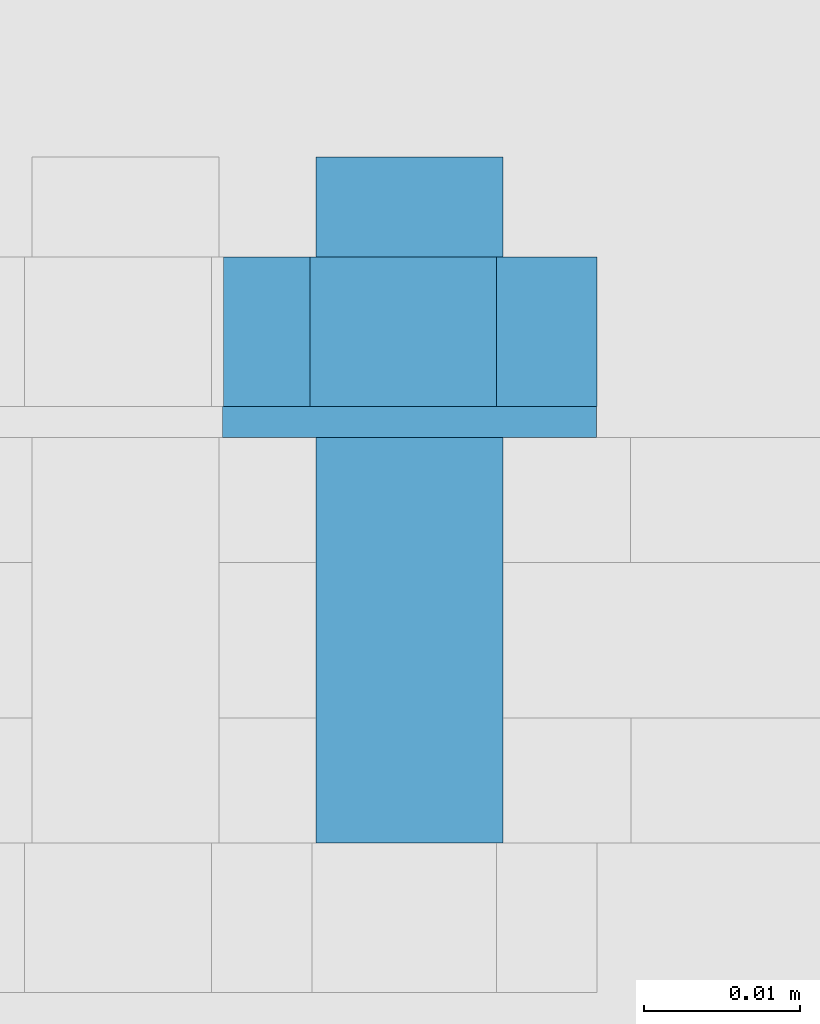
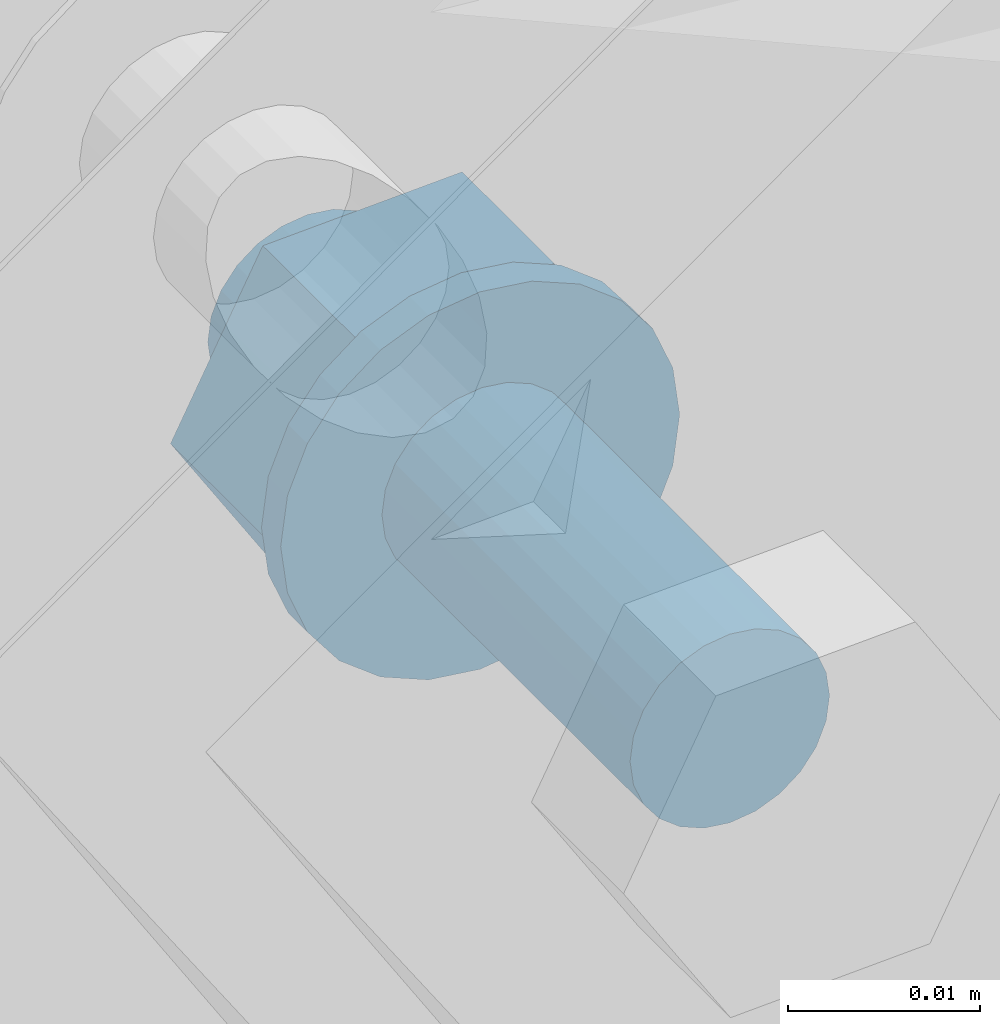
# One storey, part 208 of 251: 3 mechanical fasteners.
"""IFC4 building model written with IfcOpenShell, lengths in metres."""

from ifc_helpers import new_model, si_unit, frame, origin_with_axes, place, context, project, spatial, polyline, outline, extrude, type_object, element, save


model = new_model("IFC4")

# Units and contexts
model_context = context("Model", 3, precision=1e-05, world=origin_with_axes())
ifc_project = project(units=[si_unit("LENGTHUNIT", "METRE"), si_unit("AREAUNIT", "SQUARE_METRE"), si_unit("VOLUMEUNIT", "CUBIC_METRE"), si_unit("MASSUNIT", "GRAM", prefix="KILO"), si_unit("TIMEUNIT", "SECOND"), si_unit("PLANEANGLEUNIT", "RADIAN"), si_unit("SOLIDANGLEUNIT", "STERADIAN"), si_unit("THERMODYNAMICTEMPERATUREUNIT", "DEGREE_CELSIUS")], contexts=[model_context])

# Site, building, storey
placement_1 = place(None, origin_with_axes())
site = spatial("IfcSite", under=ifc_project, at=placement_1, Name="Italia", CompositionType="ELEMENT")
building = spatial("IfcBuilding", under=site, at=placement_1, Name="Deposito", CompositionType="ELEMENT")
storey = spatial("IfcBuildingStorey", under=building, at=placement_1, Name="Storey 0", CompositionType="ELEMENT", Elevation=0.0)

# Mechanical fasteners
mechanical_fastener_type_1 = type_object("IfcMechanicalFastenerType", Name="Reticolare 6", PredefinedType="BOLT")
placement_2 = place(placement_1, origin_with_axes())
mechanical_fastener_1_placement = place(placement_2, origin_with_axes())
element("IfcMechanicalFastener", 1, at=mechanical_fastener_1_placement, inside=storey, type_object=mechanical_fastener_type_1, Name="Reticolare 6", NominalDiameter=0.012, context=model_context, shape_type="SweptSolid", body=[
    extrude(outline(polyline([(0.0, 0.0), (-0.000204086, -0.00155306), (-0.000802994, -0.00299978), (-0.00175667, -0.00424242), (-0.00299931, -0.00519609), (-0.00444698, -0.00579548), (-0.00599957, -0.00600004), (-0.00755215, -0.00579548), (-0.00899982, -0.00519609), (-0.0102425, -0.00424242), (-0.0111961, -0.00299978), (-0.011795, -0.00155306), (-0.0119991, 0.0), (-0.011795, 0.00155306), (-0.0111961, 0.00299978), (-0.0102425, 0.00424242), (-0.00899982, 0.00519609), (-0.00755215, 0.00579548), (-0.00599957, 0.00600004), (-0.00444698, 0.00579548), (-0.00299931, 0.00519609), (-0.00175667, 0.00424242), (-0.000802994, 0.00299978), (-0.000204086, 0.00155306), (0.0, 0.0)])), frame((13.1093, 20.031, 6.46049), z_axis=(0.0, -1.0, 0.0), x_axis=(1.0, 0.0, 0.0)), (0.0, 0.0, 1.0), 0.0440006),
])
mechanical_fastener_type_2 = type_object("IfcMechanicalFastenerType", Name="Reticolare 6", PredefinedType="BOLT")
mechanical_fastener_2_placement = place(placement_2, origin_with_axes())
element("IfcMechanicalFastener", 2, at=mechanical_fastener_2_placement, inside=storey, type_object=mechanical_fastener_type_2, Name="Reticolare 6", NominalDiameter=0.0119996, context=model_context, shape_type="SweptSolid", body=[
    extrude(outline(polyline([(0.0, 0.0), (-0.00643444, 0.010129), (-0.000880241, 0.0207663), (0.0111094, 0.0212741), (0.0175438, 0.0111451), (0.0119896, 0.000508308), (0.0, 0.0)])), frame((13.0978, 20.0246, 6.44985), z_axis=(0.0, -1.0, 0.0), x_axis=(1.0, 0.0, 0.0)), (0.0, 0.0, 1.0), 0.00959969),
])
mechanical_fastener_type_3 = type_object("IfcMechanicalFastenerType", Name="Reticolare 6", PredefinedType="BOLT")
mechanical_fastener_3_placement = place(placement_2, origin_with_axes())
element("IfcMechanicalFastener", 3, at=mechanical_fastener_3_placement, inside=storey, type_object=mechanical_fastener_type_3, Name="Reticolare 6", NominalDiameter=0.024, context=model_context, shape_type="SweptSolid", body=[
    extrude(outline(polyline([(0.0, 0.0), (-0.000409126, -0.00310564), (-0.00160789, -0.00600004), (-0.00351524, -0.00848532), (-0.00600052, -0.0103922), (-0.00889397, -0.011591), (-0.0120001, -0.0120001), (-0.0151062, -0.011591), (-0.0179996, -0.0103922), (-0.0204849, -0.00848532), (-0.0223923, -0.00600004), (-0.023591, -0.00310564), (-0.0240002, 0.0), (-0.023591, 0.00310564), (-0.0223923, 0.00600004), (-0.0204849, 0.00848532), (-0.0179996, 0.0103922), (-0.0151062, 0.011591), (-0.0120001, 0.0120001), (-0.00889397, 0.011591), (-0.00600052, 0.0103922), (-0.00351524, 0.00848532), (-0.00160789, 0.00600004), (-0.000409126, 0.00310564), (0.0, 0.0)])), frame((13.1153, 20.015, 6.46049), z_axis=(0.0, -1.0, 0.0), x_axis=(1.0, 0.0, 0.0)), (0.0, 0.0, 1.0), 0.0019989),
])

save(model, "model.ifc")
